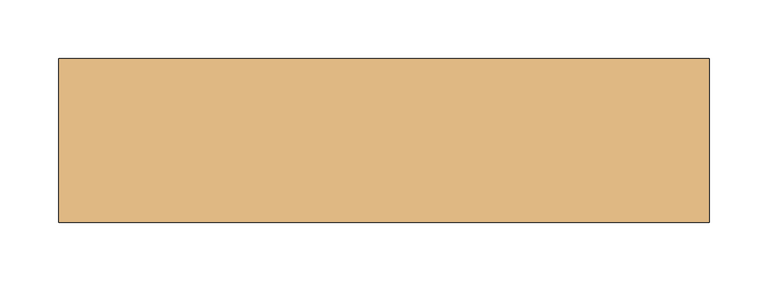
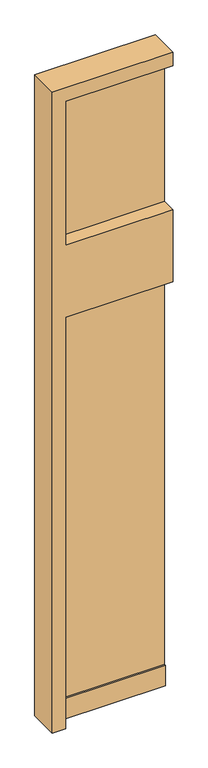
"""IFC4 building model written with IfcOpenShell, lengths in millimetres: door geometry, 営_自動ドア 両引き+ランマ1c : SSD1c 495*3050."""

from ifc_helpers import new_model, si_unit, frame, origin, origin_with_axes, place, context, project, spatial, polyline, outline, extrude, source, transform, mapped, element, save


def door_99cccb81(model_context):
    return source(origin(), model_context, "Body", "SweptSolid", [
        extrude(outline(polyline([(247.5, 0.0), (247.5, -20.0), (-247.5, -20.0), (-247.5, 0.0), (247.5, 0.0)])), origin_with_axes(), (0.0, 0.0, 1.0), 100.0),
        extrude(outline(polyline([(247.5, -6.0), (247.5, -14.0), (-247.5, -14.0), (-247.5, -6.0), (247.5, -6.0)])), frame((0.0, 0.0, 100.0), z_axis=(0.0, 0.0, 1.0), x_axis=(1.0, 0.0, 0.0)), (0.0, 0.0, 1.0), 1900.0),
        extrude(outline(polyline([(247.5, -6.0), (247.5, -14.0), (-247.5, -14.0), (-247.5, -6.0), (247.5, -6.0)])), frame((0.0, 0.0, 2350.0), z_axis=(0.0, 0.0, 1.0), x_axis=(1.0, 0.0, 0.0)), (0.0, 0.0, 1.0), 700.0),
        extrude(outline(polyline([(3115.0, 247.5), (3115.0, -307.5), (0.0, -307.5), (0.0, -247.5), (2000.0, -247.5), (2000.0, 247.5), (2350.0, 247.5), (2350.0, -247.5), (3050.0, -247.5), (3050.0, 247.5), (3115.0, 247.5)])), frame((0.0, -80.0, 0.0), z_axis=(0.0, 1.0, 0.0), x_axis=(0.0, 0.0, 1.0)), (0.0, 0.0, 1.0), 140.0),
    ])


if __name__ == "__main__":
    model = new_model("IFC4")
    model_context = context("Model", 3, world=origin())
    ifc_project = project(units=[si_unit("LENGTHUNIT", "METRE", prefix="MILLI")], contexts=[model_context])
    site = spatial("IfcSite", under=ifc_project)
    building = spatial("IfcBuilding", under=site)
    placement = place(None, origin())
    door_shape = door_99cccb81(model_context)
    element("IfcDoor", 1, ObjectType="営_自動ドア 両引き+ランマ1c : SSD1c 495*3050", at=placement, inside=building, context=model_context, shape_type="MappedRepresentation", body=[
        mapped(door_shape, transform((0.0, 0.0, 0.0), x_axis=(1.0, 0.0, 0.0), y_axis=(0.0, 1.0, 0.0), z_axis=(0.0, 0.0, 1.0))),
    ])
    save(model, "model.ifc")
